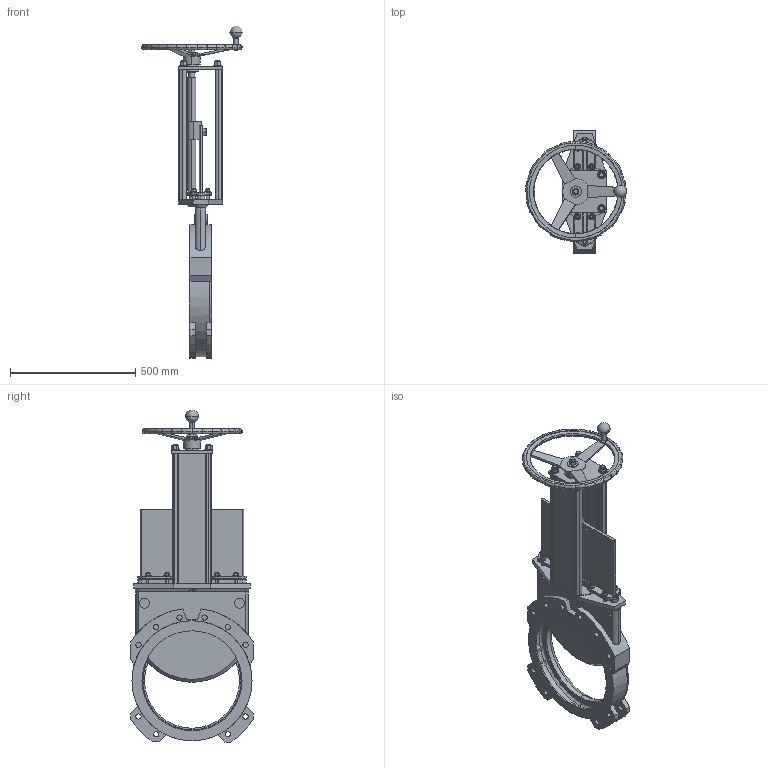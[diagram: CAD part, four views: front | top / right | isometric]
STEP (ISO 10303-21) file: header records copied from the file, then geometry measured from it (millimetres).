
FILE_DESCRIPTION(('STEP AP203'),'1');
FILE_NAME('G:/KONSTRUK/3-d block för CD/MV VALVE/HAND WHEEL/400/MV400-PN10-HW.stp','2012-12-03T07:30:58',(' '),(' '),'Spatial InterOp 3D',' ',' ');
FILE_SCHEMA(('CONFIG_CONTROL_DESIGN'));
Length unit declared in the file: millimetre
Products named in the file (1): 1
Bounding box: 403 x 490 x 1327.81 mm (x, y, z)
Volume: 15076750.4 mm3; surface area: 2718060.6 mm2
Topology: 1 solids, 21 shells, 1557 faces, 3888 edges, 2460 vertices
Faces by surface type: plane 558, cylinder 452, cone 377, torus 153, bspline 15, sphere 2
Entity records: 52720 total; most frequent: CARTESIAN_POINT 14819, DIRECTION 8332, ORIENTED_EDGE 7768, EDGE_CURVE 3884, AXIS2_PLACEMENT_3D 3421, VERTEX_POINT 2460, CIRCLE 1852, EDGE_LOOP 1730
